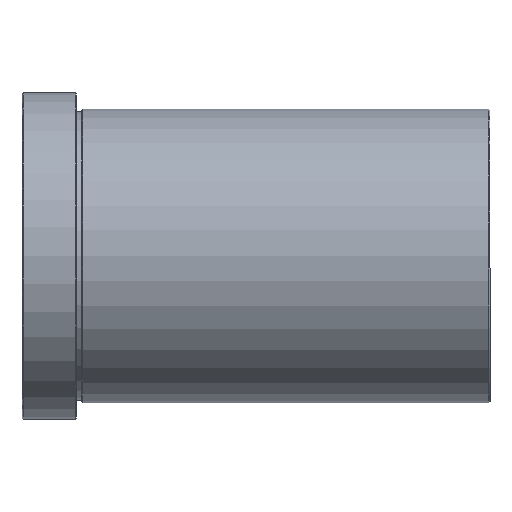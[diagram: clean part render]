
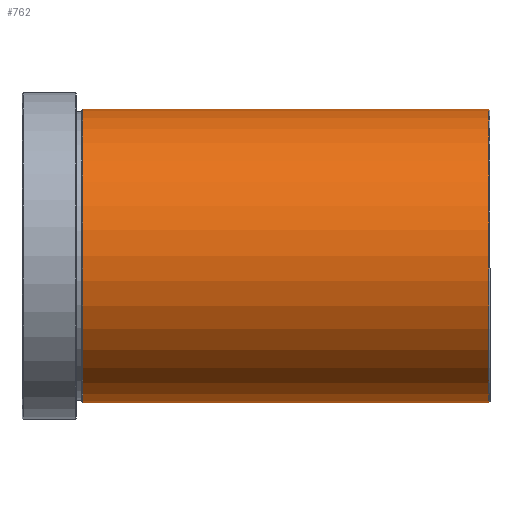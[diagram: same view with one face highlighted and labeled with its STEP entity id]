
A CAD part, top view. The second image highlights one B-rep face of the part: STEP entity #762.
In plain terms, the highlighted cylindrical face has radius 27 mm (diameter 54 mm), a partial arc.
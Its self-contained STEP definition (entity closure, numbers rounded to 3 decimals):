
#136 = DIRECTION ( 'NONE',  ( 1., 0., 0. ) ) ;
#140 = LINE ( 'NONE', #148, #613 ) ;
#148 = CARTESIAN_POINT ( 'NONE',  ( 0., -27., 0. ) ) ;
#275 = DIRECTION ( 'NONE',  ( 1., 0., 0. ) ) ;
#279 = LINE ( 'NONE', #285, #537 ) ;
#285 = CARTESIAN_POINT ( 'NONE',  ( 0., 27., 0. ) ) ;
#319 = DIRECTION ( 'NONE',  ( 0., 1., 0. ) ) ;
#320 = DIRECTION ( 'NONE',  ( -1., 0., 0. ) ) ;
#321 = CARTESIAN_POINT ( 'NONE',  ( -0.2, 0., 0. ) ) ;
#323 = DIRECTION ( 'NONE',  ( 0., -1., 0. ) ) ;
#324 = DIRECTION ( 'NONE',  ( 1., 0., 0. ) ) ;
#325 = CARTESIAN_POINT ( 'NONE',  ( -74.8, 0., 0. ) ) ;
#343 = CARTESIAN_POINT ( 'NONE',  ( -0.2, 27., 0. ) ) ;
#347 = CARTESIAN_POINT ( 'NONE',  ( -0.2, -27., 0. ) ) ;
#351 = CARTESIAN_POINT ( 'NONE',  ( -74.8, 27., 0. ) ) ;
#357 = CARTESIAN_POINT ( 'NONE',  ( -74.8, -27., 0. ) ) ;
#422 = ORIENTED_EDGE ( 'NONE', *, *, #735, .T. ) ;
#423 = ORIENTED_EDGE ( 'NONE', *, *, #694, .T. ) ;
#425 = VERTEX_POINT ( 'NONE', #351 ) ;
#426 = VERTEX_POINT ( 'NONE', #357 ) ;
#432 = DIRECTION ( 'NONE',  ( 1., 0., 0. ) ) ;
#433 = ORIENTED_EDGE ( 'NONE', *, *, #709, .F. ) ;
#434 = ORIENTED_EDGE ( 'NONE', *, *, #695, .T. ) ;
#447 = VERTEX_POINT ( 'NONE', #347 ) ;
#448 = VERTEX_POINT ( 'NONE', #343 ) ;
#473 = EDGE_LOOP ( 'NONE', ( #423, #422, #434, #433 ) ) ;
#477 = CYLINDRICAL_SURFACE ( 'NONE', #666, 27. ) ;
#478 = FACE_OUTER_BOUND ( 'NONE', #473, .T. ) ;
#479 = CARTESIAN_POINT ( 'NONE',  ( 0., 0., 0. ) ) ;
#481 = DIRECTION ( 'NONE',  ( 0., 1., 0. ) ) ;
#537 = VECTOR ( 'NONE', #275, 1000. ) ;
#556 = AXIS2_PLACEMENT_3D ( 'NONE', #325, #324, #323 ) ;
#560 = CIRCLE ( 'NONE', #561, 27. ) ;
#561 = AXIS2_PLACEMENT_3D ( 'NONE', #321, #320, #319 ) ;
#571 = CIRCLE ( 'NONE', #556, 27. ) ;
#613 = VECTOR ( 'NONE', #136, 1000. ) ;
#666 = AXIS2_PLACEMENT_3D ( 'NONE', #479, #432, #481 ) ;
#694 = EDGE_CURVE ( 'NONE', #425, #426, #571, .T. ) ;
#695 = EDGE_CURVE ( 'NONE', #447, #448, #560, .T. ) ;
#709 = EDGE_CURVE ( 'NONE', #425, #448, #279, .T. ) ;
#735 = EDGE_CURVE ( 'NONE', #426, #447, #140, .T. ) ;
#762 = ADVANCED_FACE ( 'NONE', ( #478 ), #477, .T. ) ;
